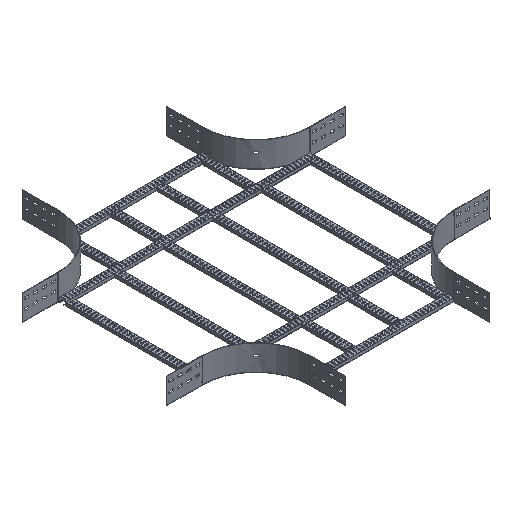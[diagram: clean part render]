
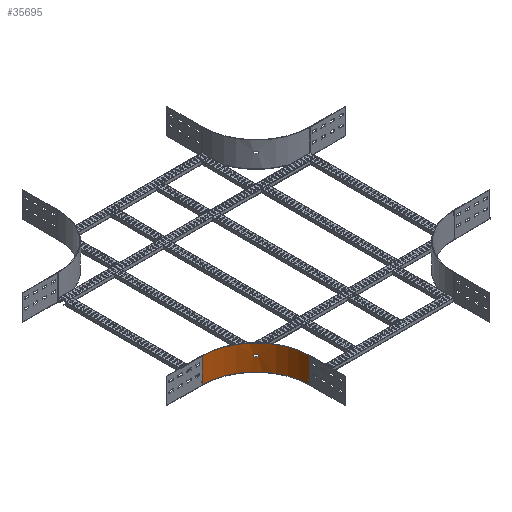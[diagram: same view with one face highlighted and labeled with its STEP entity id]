
A CAD part, isometric view. The second image highlights one B-rep face of the part: STEP entity #35695.
In plain terms, the highlighted cylindrical face has radius 300 mm (diameter 600 mm), a partial arc.
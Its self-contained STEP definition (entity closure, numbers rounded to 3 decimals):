
#903=FACE_BOUND('',#5209,.T.);
#1683=CYLINDRICAL_SURFACE('',#37539,300.);
#1744=CIRCLE('',#37531,300.);
#1749=CIRCLE('',#37538,300.);
#1750=CIRCLE('',#37540,300.);
#1751=CIRCLE('',#37541,300.);
#3395=FACE_OUTER_BOUND('',#5208,.T.);
#5208=EDGE_LOOP('',(#24100,#24101,#24102,#24103));
#5209=EDGE_LOOP('',(#24104,#24105,#24106,#24107));
#7799=LINE('',#49427,#11483);
#7801=LINE('',#49433,#11485);
#7806=LINE('',#49457,#11490);
#7807=LINE('',#49460,#11491);
#11483=VECTOR('',#40295,304.8);
#11485=VECTOR('',#40299,304.8);
#11490=VECTOR('',#40326,304.8);
#11491=VECTOR('',#40329,304.8);
#15164=VERTEX_POINT('',#49420);
#15167=VERTEX_POINT('',#49425);
#15169=VERTEX_POINT('',#49430);
#15170=VERTEX_POINT('',#49432);
#15176=VERTEX_POINT('',#49453);
#15177=VERTEX_POINT('',#49454);
#15178=VERTEX_POINT('',#49456);
#15179=VERTEX_POINT('',#49458);
#18727=EDGE_CURVE('',#15167,#15164,#7799,.T.);
#18729=EDGE_CURVE('',#15169,#15170,#7801,.T.);
#18732=EDGE_CURVE('',#15164,#15169,#1744,.T.);
#18739=EDGE_CURVE('',#15170,#15167,#1749,.T.);
#18740=EDGE_CURVE('',#15176,#15177,#1750,.T.);
#18741=EDGE_CURVE('',#15177,#15178,#7806,.T.);
#18742=EDGE_CURVE('',#15178,#15179,#1751,.T.);
#18743=EDGE_CURVE('',#15179,#15176,#7807,.T.);
#24100=ORIENTED_EDGE('',*,*,#18727,.F.);
#24101=ORIENTED_EDGE('',*,*,#18739,.F.);
#24102=ORIENTED_EDGE('',*,*,#18729,.F.);
#24103=ORIENTED_EDGE('',*,*,#18732,.F.);
#24104=ORIENTED_EDGE('',*,*,#18740,.T.);
#24105=ORIENTED_EDGE('',*,*,#18741,.T.);
#24106=ORIENTED_EDGE('',*,*,#18742,.T.);
#24107=ORIENTED_EDGE('',*,*,#18743,.T.);
#35695=ADVANCED_FACE('',(#3395,#903),#1683,.F.);
#37531=AXIS2_PLACEMENT_3D('',#49438,#40304,#40305);
#37538=AXIS2_PLACEMENT_3D('',#49451,#40320,#40321);
#37539=AXIS2_PLACEMENT_3D('',#49452,#40322,#40323);
#37540=AXIS2_PLACEMENT_3D('',#49455,#40324,#40325);
#37541=AXIS2_PLACEMENT_3D('',#49459,#40327,#40328);
#40295=DIRECTION('',(0.,0.,1.));
#40299=DIRECTION('',(0.,0.,-1.));
#40304=DIRECTION('center_axis',(0.,0.,-1.));
#40305=DIRECTION('ref_axis',(0.,1.,0.));
#40320=DIRECTION('center_axis',(0.,0.,1.));
#40321=DIRECTION('ref_axis',(0.,1.,0.));
#40322=DIRECTION('center_axis',(0.,0.,-1.));
#40323=DIRECTION('ref_axis',(0.,1.,0.));
#40324=DIRECTION('center_axis',(0.,0.,-1.));
#40325=DIRECTION('ref_axis',(0.,1.,0.));
#40326=DIRECTION('',(0.,0.,-1.));
#40327=DIRECTION('center_axis',(0.,0.,1.));
#40328=DIRECTION('ref_axis',(0.,1.,0.));
#40329=DIRECTION('',(0.,0.,1.));
#49420=CARTESIAN_POINT('',(-705.5,-405.5,71.));
#49425=CARTESIAN_POINT('',(-705.5,-405.5,-71.));
#49427=CARTESIAN_POINT('',(-705.5,-405.5,-71.));
#49430=CARTESIAN_POINT('',(-405.5,-705.5,71.));
#49432=CARTESIAN_POINT('',(-405.5,-705.5,-71.));
#49433=CARTESIAN_POINT('',(-405.5,-705.5,71.));
#49438=CARTESIAN_POINT('Origin',(-705.5,-705.5,71.));
#49451=CARTESIAN_POINT('Origin',(-705.5,-705.5,-71.));
#49452=CARTESIAN_POINT('Origin',(-705.5,-705.5,0.));
#49453=CARTESIAN_POINT('',(-501.26,-485.759,15.5));
#49454=CARTESIAN_POINT('',(-485.706,-501.318,15.5));
#49455=CARTESIAN_POINT('Origin',(-705.5,-705.5,15.5));
#49456=CARTESIAN_POINT('',(-485.706,-501.318,4.5));
#49457=CARTESIAN_POINT('',(-485.706,-501.318,15.5));
#49458=CARTESIAN_POINT('',(-501.26,-485.759,4.5));
#49459=CARTESIAN_POINT('Origin',(-705.5,-705.5,4.5));
#49460=CARTESIAN_POINT('',(-501.26,-485.759,4.5));
